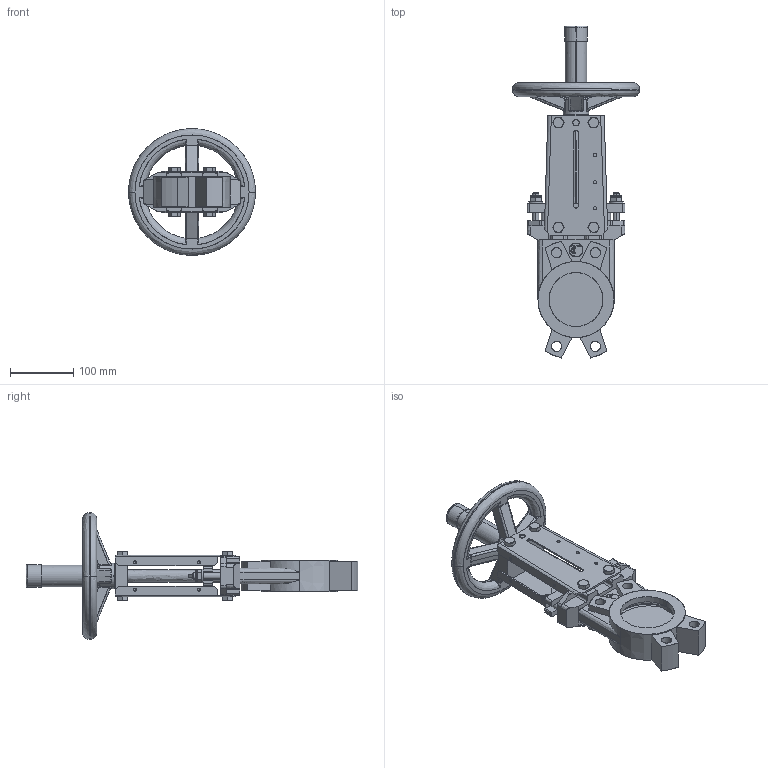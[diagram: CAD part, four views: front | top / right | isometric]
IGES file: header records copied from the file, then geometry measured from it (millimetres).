
Start section: SolidWorks IGES file using analytic representation for surfaces
Global section: file name: D:\part\3D Projects\VG-HANDWHEEL(DN50-600)\VG DN80\VG DN80.IGS; native system: SolidWorks 2009; preprocessor: SolidWorks 2009; author: zhixin.zheng; date: 100125.162408; units: millimetre
Bounding box: 200 x 523.67 x 200 mm (x, y, z)
Surface area: 341745.1 mm2 (no closed solid volume)
Topology: 0 solids, 0 shells, 809 faces, 8682 edges, 8682 vertices
Faces by surface type: bspline 473, revolution 336
